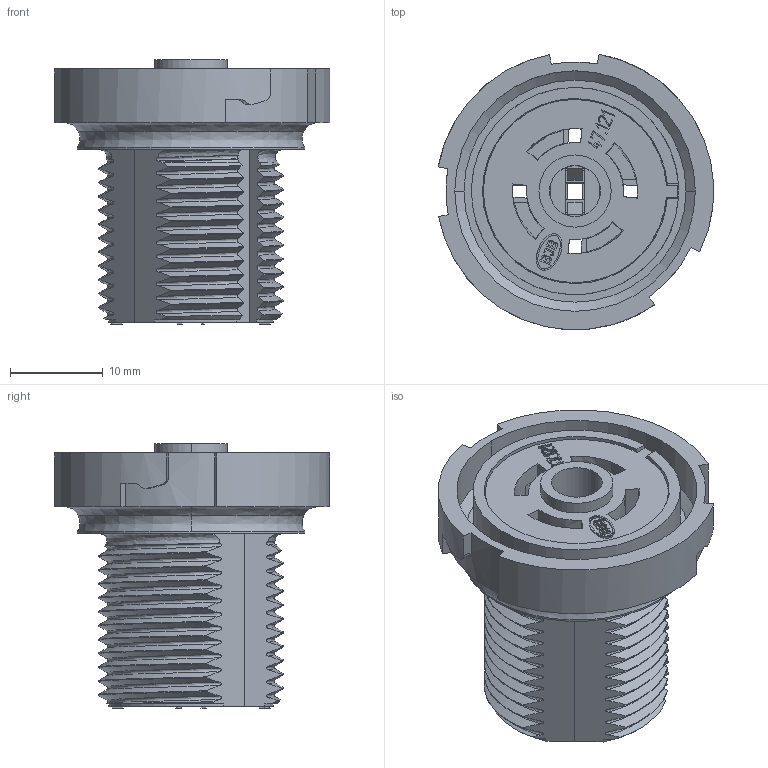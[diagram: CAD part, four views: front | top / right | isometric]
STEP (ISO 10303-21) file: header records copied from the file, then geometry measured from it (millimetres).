
FILE_DESCRIPTION(('CAx-IF Rec.Pracs.---Model Styling and Organization---1.2---2011-12-15','CAx-IF Rec.Pracs.---Geometric and Assembly Validation Properties---4.1---2014-06-16','CAx-IF Rec.Pracs.---PMI Polyline Presentation---2.0---2013-05-24'),'2;1');
FILE_NAME('021YN02Y0A.stp','2018-08-23T09:54:21+02:00',(''),(''),'STEP Interface 4.1 Sp1 by CT CoreTechnologie','3D_Evolution4.1 Sp1 by CT CoreTechnologie','');
FILE_SCHEMA(('AUTOMOTIVE_DESIGN { 1 0 10303 214 1 1 1 1 }'));
Length unit declared in the file: millimetre
Products named in the file (3): 021-N02-0A; 021-N01-0B; 021-N04-07
Assembly tree (2 placements, depth 2):
  021-N02-0A
    021-N01-0B
    021-N04-07
Bounding box: 29.76 x 29.75 x 28.6 mm (x, y, z)
Volume: 5937 mm3; surface area: 9600 mm2
Topology: 2 solids, 2 shells, 606 faces, 1736 edges, 1153 vertices
Faces by surface type: plane 347, bspline 139, cylinder 120
Entity records: 28836 total; most frequent: CARTESIAN_POINT 8373, ORIENTED_EDGE 3472, DIRECTION 2964, EDGE_CURVE 1736, VECTOR 1160, LINE 1160, VERTEX_POINT 1153, AXIS2_PLACEMENT_3D 902
